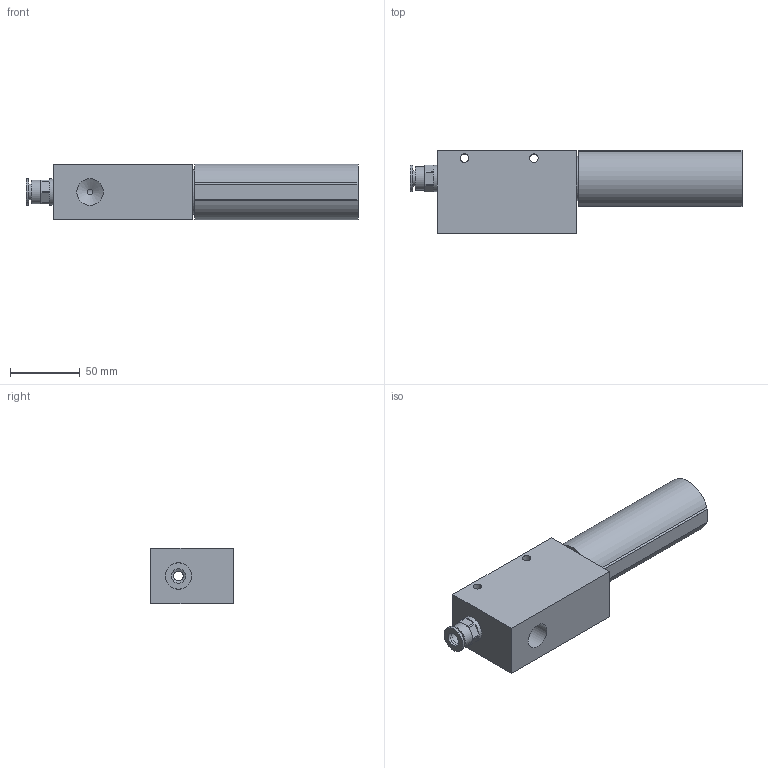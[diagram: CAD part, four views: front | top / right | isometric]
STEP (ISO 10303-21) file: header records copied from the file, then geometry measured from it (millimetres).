
FILE_DESCRIPTION (( 'STEP AP214' ), '1' );
FILE_NAME ('V-CV25PTC.STEP', '2024-05-07T15:58:51', ( '' ), ( '' ), 'SwSTEP 2.0', 'SolidWorks 2018', '' );
FILE_SCHEMA (( 'AUTOMOTIVE_DESIGN' ));
Length unit declared in the file: millimetre
Products named in the file (1): V-CV25PTC
Bounding box: 238.5 x 59.8 x 40.15 mm (x, y, z)
Volume: 344679.7 mm3; surface area: 55213.1 mm2
Topology: 1 solids, 1 shells, 53 faces, 124 edges, 81 vertices
Faces by surface type: plane 34, cylinder 16, cone 3
Full cylindrical faces by diameter (mm): 4.207 x1, 6.15 x2, 6.912 x1, 10.3 x1, 11 x1, 15.25 x1, 16.8 x1, 17.5 x1, 18.95 x2, 19 x2, 31.75 x1
Entity records: 1520 total; most frequent: CARTESIAN_POINT 293, DIRECTION 254, ORIENTED_EDGE 210, EDGE_CURVE 105, AXIS2_PLACEMENT_3D 96, EDGE_LOOP 86, VERTEX_POINT 79, FACE_OUTER_BOUND 67
